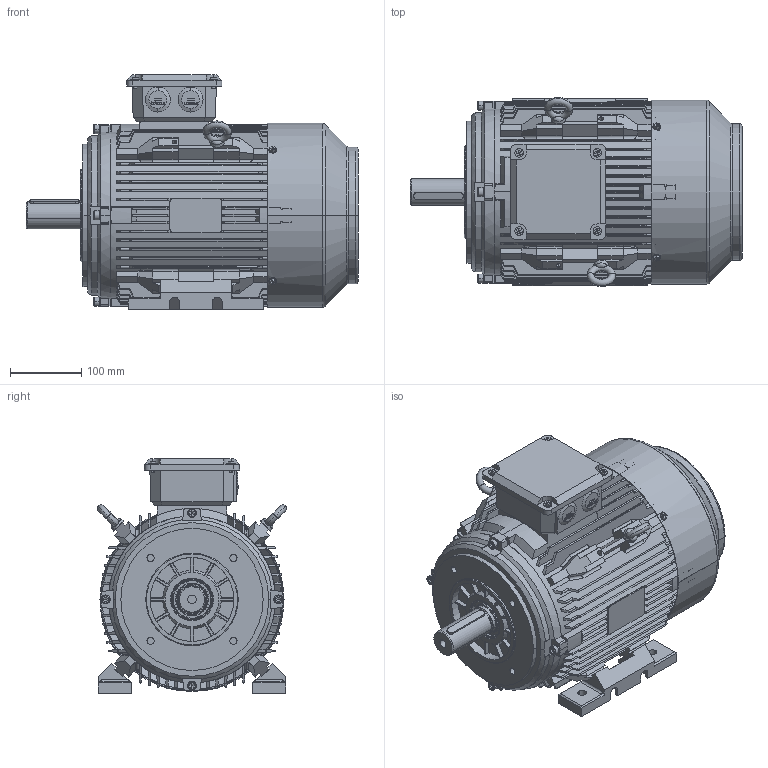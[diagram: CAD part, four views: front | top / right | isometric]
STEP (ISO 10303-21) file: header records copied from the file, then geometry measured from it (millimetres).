
FILE_DESCRIPTION (( 'STEP AP203' ), '1' );
FILE_NAME ('TC 132S B34外形图.STEP', '2013-11-01T08:25:58', ( '微软用户' ), ( '微软中国' ), 'SwSTEP 2.0', 'SolidWorks 2008', '' );
FILE_SCHEMA (( 'CONFIG_CONTROL_DESIGN' ));
Length unit declared in the file: millimetre
Products named in the file (20): TC 132S转子_默认; TC 132S （波形垫在前）轴_默认; 132风叶_默认; 油封40-58-7_默认; M5-8_默认; 吊环M8_默认; 平键10-70_默认; TC 132S B34俋倛芞; TC 132S B5 机座_默认; TC 132 B3 端盖_默认; 6308_默认; TC 112-132接线盒座_默认; TC 112-132接线盒盖_默认; M25螺塞_默认; 风罩_默认; M8-30_默认; 8_默认; M5-12_默认; TC 132 B14 法兰_默认; TC 132S 底脚_默认
Assembly tree (36 placements, depth 3):
  TC 132S B34俋倛芞
    TC 132S转子_默认
      TC 132S （波形垫在前）轴_默认
      6308_默认  x2
    8_默认  x4
    M5-12_默认  x4
    油封40-58-7_默认  x2
    M8-30_默认  x4
    M5-8_默认  x4
    吊环M8_默认  x2
    TC 132S 底脚_默认  x2
    平键10-70_默认
    TC 112-132接线盒盖_默认
    M25螺塞_默认  x2
    TC 112-132接线盒座_默认
    TC 132S B5 机座_默认
    TC 132 B3 端盖_默认
    132风叶_默认
    TC 132 B14 法兰_默认
    风罩_默认
Bounding box: 467 x 265.93 x 330.04 mm (x, y, z)
Volume: 4477489.7 mm3; surface area: 1652842.7 mm2
Topology: 35 solids, 35 shells, 4216 faces, 11672 edges, 7622 vertices
Faces by surface type: plane 2078, cylinder 1521, cone 355, torus 150, bspline 112
Entity records: 133704 total; most frequent: CARTESIAN_POINT 36073, ORIENTED_EDGE 20678, DIRECTION 18948, EDGE_CURVE 10339, VERTEX_POINT 6792, AXIS2_PLACEMENT_3D 6540, LINE 5868, VECTOR 5868
